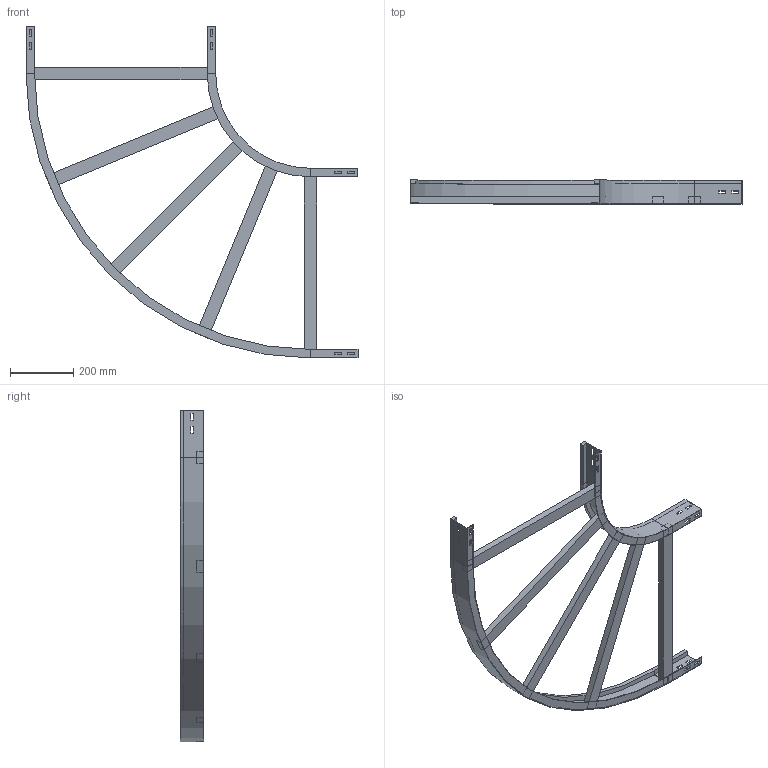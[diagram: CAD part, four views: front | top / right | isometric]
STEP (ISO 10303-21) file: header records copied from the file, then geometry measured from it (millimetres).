
FILE_DESCRIPTION (( 'STEP AP214' ), '1' );
FILE_NAME ('A2_10B3C600.step', '2025-02-21T15:26:31', ( '' ), ( '' ), 'SwSTEP 2.0', 'SolidWorks 2023', '' );
FILE_SCHEMA (( 'AUTOMOTIVE_DESIGN' ));
Length unit declared in the file: millimetre
Products named in the file (4): A2_LONGH.INTERNO 90°_H75_R300; A2_LONGH.ESTERNO 90°_H75_R300+600; TRAVERSINO_600; A2_10B3C600
Assembly tree (7 placements, depth 2):
  A2_10B3C600
    A2_LONGH.INTERNO 90°_H75_R300
    A2_LONGH.ESTERNO 90°_H75_R300+600
    TRAVERSINO_600  x5
Bounding box: 1050 x 75 x 1050 mm (x, y, z)
Volume: 3382974.6 mm3; surface area: 953625.5 mm2
Topology: 7 solids, 7 shells, 146 faces, 364 edges, 232 vertices
Faces by surface type: plane 138, cylinder 8
Entity records: 3837 total; most frequent: CARTESIAN_POINT 648, ORIENTED_EDGE 632, DIRECTION 596, EDGE_CURVE 316, VECTOR 300, LINE 300, VERTEX_POINT 200, EDGE_LOOP 154
